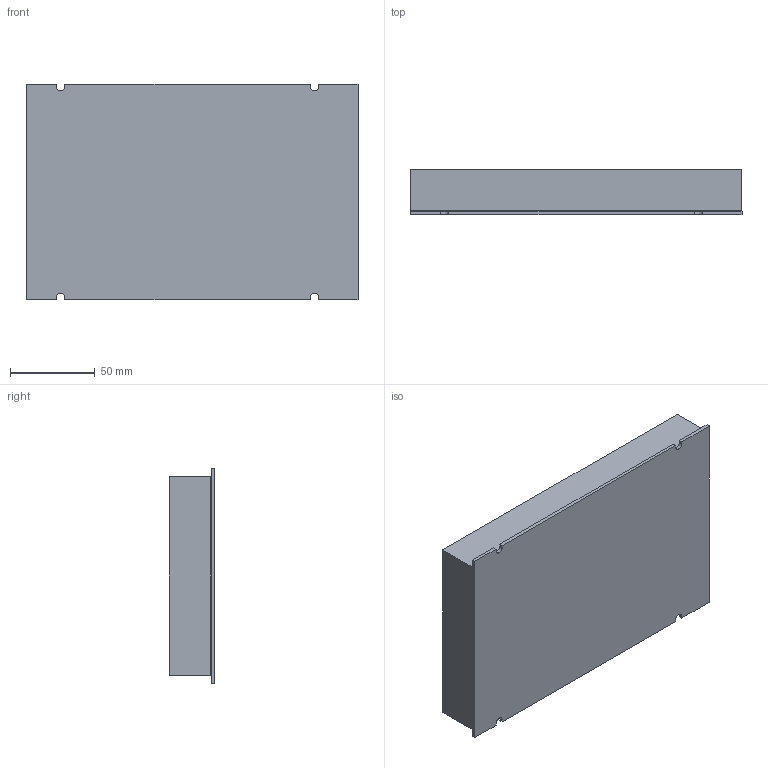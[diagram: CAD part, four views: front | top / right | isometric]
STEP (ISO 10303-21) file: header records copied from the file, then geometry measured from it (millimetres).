
FILE_DESCRIPTION (( 'STEP AP203' ), '1' );
FILE_NAME ('力为控制技术-3D模型-《PMC1086》.STEP', '2024-12-30T02:20:27', ( '' ), ( '' ), 'SwSTEP 2.0', 'SolidWorks 2020', '' );
FILE_SCHEMA (( 'CONFIG_CONTROL_DESIGN' ));
Length unit declared in the file: millimetre
Products named in the file (1): 力为控制技术-3D模型-《PMC1086》
Bounding box: 196 x 26.8 x 127.4 mm (x, y, z)
Volume: 79824.5 mm3; surface area: 123528.3 mm2
Topology: 11 solids, 11 shells, 123 faces, 300 edges, 200 vertices
Faces by surface type: plane 79, cylinder 44
Entity records: 3735 total; most frequent: DIRECTION 636, CARTESIAN_POINT 624, ORIENTED_EDGE 600, EDGE_CURVE 300, LINE 212, VECTOR 212, AXIS2_PLACEMENT_3D 212, VERTEX_POINT 200
